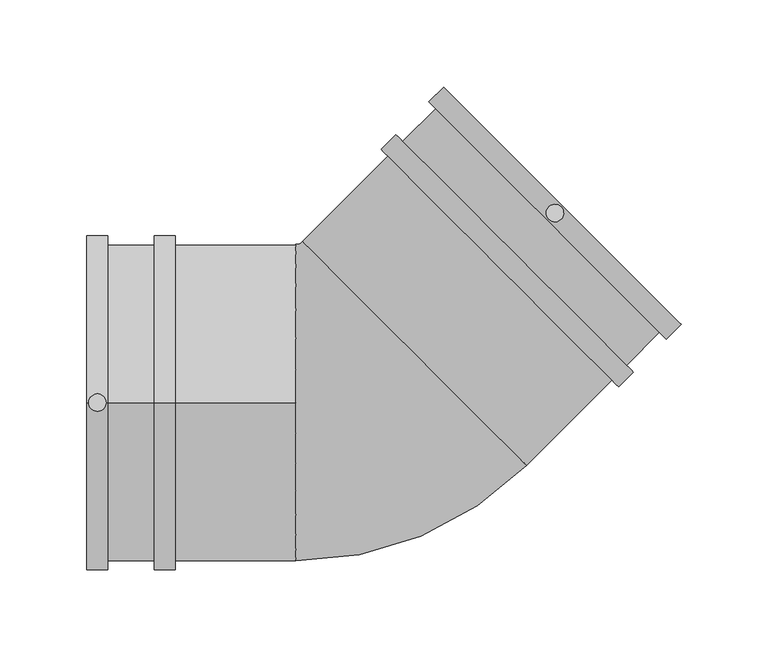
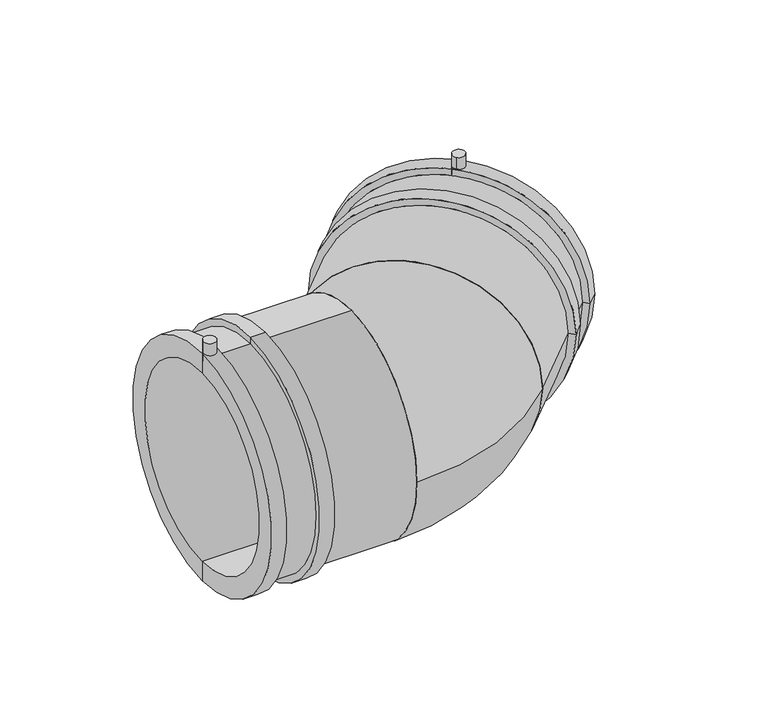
"""IFC4 building model written with IfcOpenShell, lengths in millimetres: pipe fitting geometry, Plumbing_Pipe-Fittings_Plasson_Wastewater-Elbow-45_470604 : Plumbing_Pipe-Fittings_Plasson_Wastewater-Elbow-45_470604."""

from ifc_helpers import new_model, si_unit, point, frame, frame_2d, origin, place, context, project, spatial, polyline, circle_curve, ellipse_curve, trimmed, segment, composite_curve, outline, extrude, source, transform, mapped, element, save
from ifc_brep_helpers import plane_surface, cylinder_surface, revolved_surface, advanced_brep


def pipe_fitting_199b5d55(model_context):
    return source(origin(), model_context, "Body", "SolidModel", [
        extrude(outline(composite_curve([segment(trimmed(circle_curve(frame_2d((-154.0130301, 0.0)), 5.0), [point((-159.0130301, 0.0))], [point((-149.0130301, 0.0))], False, "CARTESIAN"), True, "CONTINUOUS"), segment(trimmed(circle_curve(frame_2d((-154.0130301, 0.0)), 5.0), [point((-149.0130301, 0.0))], [point((-159.0130301, 0.0))], False, "CARTESIAN"), True, "CONTINUOUS")], self_intersect=False)), frame((0.0, 0.0, 88.25), z_axis=(0.0, 0.0, 1.0), x_axis=(1.0, 0.0, 0.0)), (0.0, 0.0, 1.0), 17.75),
        extrude(outline(composite_curve([segment(trimmed(circle_curve(frame_2d((108.903658, 108.903658)), 5.0), [point((105.3681241, 105.3681241))], [point((112.4391919, 112.4391919))], False, "CARTESIAN"), True, "CONTINUOUS"), segment(trimmed(circle_curve(frame_2d((108.903658, 108.903658)), 5.0), [point((112.4391919, 112.4391919))], [point((105.3681241, 105.3681241))], False, "CARTESIAN"), True, "CONTINUOUS")], self_intersect=False)), frame((0.0, 0.0, 88.25), z_axis=(0.0, 0.0, 1.0), x_axis=(1.0, 0.0, 0.0)), (0.0, 0.0, 1.0), 17.75),
        advanced_brep(
        [(169.7148412, 56.5777562, 0.0), (56.5777562, 169.7148412, 0.0), (-28.2750576, 84.8620274, 0.0), (84.8620274, -28.2750576, 0.0), (181.3821031, 44.9104943, 0.0), (44.9104943, 181.3821031, 0.0), (172.8968217, 36.4252129, 0.0), (36.4252129, 172.8968217, 0.0), (169.0077344, 40.3143002, 0.0), (40.3143002, 169.0077344, 0.0), (150.092628, 21.3991938, 0.0), (21.3991938, 150.092628, 0.0), (145.5082641, 9.0366553, 0.0), (9.0366553, 145.5082641, 0.0), (17.5101065, 153.9817153, 0.0), (153.9817153, 17.5101065, 0.0), (-36.0532322, 92.640202, 0.0), (92.640202, -36.0532322, 0.0), (141.6191768, 12.9257426, 0.0), (12.9257426, 141.6191768, 0.0)],
        [
            (0, 1, circle_curve(frame((113.1462987, 113.1462987, 0.0), z_axis=(0.7071067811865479, 0.7071067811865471, 0.0), x_axis=(-0.7071067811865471, 0.7071067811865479, 0.0)), 80.0)),
            (1, 2),
            (2, 3, circle_curve(frame((28.2934849, 28.2934849, 0.0), z_axis=(-0.7071067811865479, -0.7071067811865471, 0.0), x_axis=(-0.7071067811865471, 0.7071067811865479, 0.0)), 80.0)),
            (3, 0),
            (1, 0, circle_curve(frame((113.1462987, 113.1462987, 0.0), z_axis=(0.7071067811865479, 0.7071067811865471, 0.0), x_axis=(-0.7071067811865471, 0.7071067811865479, 0.0)), 80.0)),
            (3, 2, circle_curve(frame((28.2934849, 28.2934849, 0.0), z_axis=(-0.7071067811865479, -0.7071067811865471, 0.0), x_axis=(-0.7071067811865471, 0.7071067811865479, 0.0)), 80.0)),
            (4, 5, circle_curve(frame((113.1462987, 113.1462987, 0.0), z_axis=(0.7071067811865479, 0.7071067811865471, 0.0), x_axis=(-0.7071067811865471, 0.7071067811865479, 0.0)), 96.5)),
            (5, 1),
            (0, 4),
            (5, 4, circle_curve(frame((113.1462987, 113.1462987, 0.0), z_axis=(0.7071067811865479, 0.7071067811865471, 0.0), x_axis=(-0.7071067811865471, 0.7071067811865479, 0.0)), 96.5)),
            (6, 7, circle_curve(frame((104.6610173, 104.6610173, 0.0), z_axis=(0.7071067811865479, 0.7071067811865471, 0.0), x_axis=(-0.7071067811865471, 0.7071067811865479, 0.0)), 96.5)),
            (7, 5),
            (4, 6),
            (7, 6, circle_curve(frame((104.6610173, 104.6610173, 0.0), z_axis=(0.7071067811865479, 0.7071067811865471, 0.0), x_axis=(-0.7071067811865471, 0.7071067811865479, 0.0)), 96.5)),
            (8, 9, circle_curve(frame((104.6610173, 104.6610173, 0.0), z_axis=(0.7071067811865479, 0.7071067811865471, 0.0), x_axis=(-0.7071067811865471, 0.7071067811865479, 0.0)), 91.0)),
            (9, 7),
            (6, 8),
            (9, 8, circle_curve(frame((104.6610173, 104.6610173, 0.0), z_axis=(0.7071067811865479, 0.7071067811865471, 0.0), x_axis=(-0.7071067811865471, 0.7071067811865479, 0.0)), 91.0)),
            (10, 11, circle_curve(frame((85.7459109, 85.7459109, 0.0), z_axis=(0.7071067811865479, 0.7071067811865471, 0.0), x_axis=(-0.7071067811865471, 0.7071067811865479, 0.0)), 91.0)),
            (11, 9),
            (8, 10),
            (11, 10, circle_curve(frame((85.7459109, 85.7459109, 0.0), z_axis=(0.7071067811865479, 0.7071067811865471, 0.0), x_axis=(-0.7071067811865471, 0.7071067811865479, 0.0)), 91.0)),
            (12, 13, circle_curve(frame((77.2724597, 77.2724597, 0.0), z_axis=(0.7071067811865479, 0.7071067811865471, 0.0), x_axis=(-0.7071067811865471, 0.7071067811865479, 0.0)), 96.5)),
            (13, 14),
            (14, 15, circle_curve(frame((85.7459109, 85.7459109, 0.0), z_axis=(-0.7071067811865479, -0.7071067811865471, 0.0), x_axis=(-0.7071067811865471, 0.7071067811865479, 0.0)), 96.5)),
            (15, 12),
            (13, 12, circle_curve(frame((77.2724597, 77.2724597, 0.0), z_axis=(0.7071067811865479, 0.7071067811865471, 0.0), x_axis=(-0.7071067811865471, 0.7071067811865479, 0.0)), 96.5)),
            (15, 14, circle_curve(frame((85.7459109, 85.7459109, 0.0), z_axis=(-0.7071067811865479, -0.7071067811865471, 0.0), x_axis=(-0.7071067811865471, 0.7071067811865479, 0.0)), 96.5)),
            (2, 16),
            (16, 17, circle_curve(frame((28.2934849, 28.2934849, 0.0), z_axis=(-0.7071067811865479, -0.7071067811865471, 0.0), x_axis=(-0.7071067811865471, 0.7071067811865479, 0.0)), 91.0)),
            (17, 3),
            (17, 16, circle_curve(frame((28.2934849, 28.2934849, 0.0), z_axis=(-0.7071067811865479, -0.7071067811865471, 0.0), x_axis=(-0.7071067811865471, 0.7071067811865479, 0.0)), 91.0)),
            (14, 11),
            (10, 15),
            (18, 19, circle_curve(frame((77.2724597, 77.2724597, 0.0), z_axis=(0.7071067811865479, 0.7071067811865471, 0.0), x_axis=(-0.7071067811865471, 0.7071067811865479, 0.0)), 91.0)),
            (19, 13),
            (12, 18),
            (19, 18, circle_curve(frame((77.2724597, 77.2724597, 0.0), z_axis=(0.7071067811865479, 0.7071067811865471, 0.0), x_axis=(-0.7071067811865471, 0.7071067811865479, 0.0)), 91.0)),
            (16, 19),
            (18, 17),
        ],
        [
            revolved_surface(polyline([(-28.275057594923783, 84.86202739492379, 0.0), (56.577756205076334, 169.71484119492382, 0.0)]), (0.0, 0.0, 0.0), (-0.7071067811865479, -0.7071067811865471, 0.0)),
            plane_surface(frame((113.1462987, 113.1462987, 0.0), z_axis=(0.7071067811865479, 0.7071067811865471, 0.0), x_axis=(-0.7071067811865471, 0.7071067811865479, 0.0))),
            cylinder_surface(frame((0.0, 0.0, 0.0), z_axis=(-0.7071067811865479, -0.7071067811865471, 0.0), x_axis=(-0.7071067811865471, 0.7071067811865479, 0.0)), 96.5),
            plane_surface(frame((104.6610173, 104.6610173, 0.0), z_axis=(-0.7071067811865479, -0.7071067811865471, 0.0), x_axis=(-0.7071067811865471, 0.7071067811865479, 0.0))),
            cylinder_surface(frame((0.0, 0.0, 0.0), z_axis=(-0.7071067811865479, -0.7071067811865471, 0.0), x_axis=(-0.7071067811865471, 0.7071067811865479, 0.0)), 91.0),
            plane_surface(frame((28.2934849, 28.2934849, 0.0), z_axis=(-0.7071067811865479, -0.7071067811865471, 0.0), x_axis=(-0.7071067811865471, 0.7071067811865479, 0.0))),
            plane_surface(frame((85.7459109, 85.7459109, 0.0), z_axis=(0.7071067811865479, 0.7071067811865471, 0.0), x_axis=(-0.7071067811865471, 0.7071067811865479, 0.0))),
            plane_surface(frame((77.2724597, 77.2724597, 0.0), z_axis=(-0.7071067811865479, -0.7071067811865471, 0.0), x_axis=(-0.7071067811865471, 0.7071067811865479, 0.0))),
        ],
        [
            (0, [[1, 2, 3, 4]]),
            (0, [[5, -4, 6, -2]]),
            (1, [[7, 8, -1, 9]]),
            (1, [[10, -9, -5, -8]]),
            (2, [[11, 12, -7, 13]]),
            (2, [[14, -13, -10, -12]]),
            (3, [[15, 16, -11, 17]]),
            (3, [[18, -17, -14, -16]]),
            (4, [[19, 20, -15, 21]]),
            (4, [[22, -21, -18, -20]]),
            (2, [[23, 24, 25, 26]]),
            (2, [[27, -26, 28, -24]]),
            (5, [[-3, 29, 30, 31]]),
            (5, [[-6, -31, 32, -29]]),
            (6, [[-25, 33, -19, 34]]),
            (6, [[-28, -34, -22, -33]]),
            (7, [[35, 36, -23, 37]]),
            (7, [[38, -37, -27, -36]]),
            (4, [[-30, 39, -35, 40]]),
            (4, [[-32, -40, -38, -39]]),
        ],
    ),
        advanced_brep(
        [(-40.0130301, -91.0, 0.0), (-40.0130301, 91.0, 0.0), (92.640202, -36.0532322, 0.0), (-36.0532322, 92.640202, 0.0)],
        [
            (0, 1, circle_curve(frame((-40.0130301, 0.0, 0.0), z_axis=(-1.0, 0.0, 0.0), x_axis=(0.0, 1.0, 0.0)), 91.0)),
            (1, 0, circle_curve(frame((-40.0130301, 0.0, 0.0), z_axis=(-1.0, 0.0, 0.0), x_axis=(0.0, 1.0, 0.0)), 91.0)),
            (2, 3, circle_curve(frame((28.2934849, 28.2934849, 0.0), z_axis=(0.7071067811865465, 0.7071067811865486, 0.0), x_axis=(-0.7071067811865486, 0.7071067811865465, 0.0)), 91.0)),
            (3, 2, circle_curve(frame((28.2934849, 28.2934849, 0.0), z_axis=(0.7071067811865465, 0.7071067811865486, 0.0), x_axis=(-0.7071067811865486, 0.7071067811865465, 0.0)), 91.0)),
            (3, 1, circle_curve(frame((-40.0130301, 96.6, 0.0), z_axis=(0.0, 0.0, -1.0), x_axis=(0.0, -1.0, 0.0)), 5.6)),
            (0, 2, circle_curve(frame((-40.0130301, 96.6, 0.0), z_axis=(0.0, 0.0, 1.0), x_axis=(0.0, -1.0, 0.0)), 187.6)),
        ],
        [
            plane_surface(frame((-40.0130301, 0.0, 0.0), z_axis=(-1.0, 0.0, 0.0), x_axis=(0.0, 0.0, 1.0))),
            plane_surface(frame((28.2934849, 28.2934849, 0.0), z_axis=(0.7071067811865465, 0.7071067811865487, 0.0), x_axis=(0.0, 0.0, 1.0))),
            revolved_surface(trimmed(ellipse_curve(frame((-40.0130301, 0.0, 0.0), z_axis=(-1.0, 0.0, 0.0), x_axis=(0.0, 1.0, 0.0)), 91.0, 91.0), [point((-40.0130301, -91.0, 0.0))], [point((-40.0130301, 91.0, 0.0))], True, "CARTESIAN"), (-40.0130301, 96.6, 0.0), (0.0, 0.0, 1.0)),
            revolved_surface(trimmed(ellipse_curve(frame((-40.0130301, 0.0, 0.0), z_axis=(-1.0, 0.0, 0.0), x_axis=(0.0, 1.0, 0.0)), 91.0, 91.0), [point((-40.0130301, 91.0, 0.0))], [point((-40.0130301, -91.0, 0.0))], True, "CARTESIAN"), (-40.0130301, 96.6, 0.0), (0.0, 0.0, 1.0)),
        ],
        [
            (0, [[1, 2]]),
            (1, [[3, 4]]),
            (2, [[5, -1, 6, -4]]),
            (3, [[-6, -2, -5, -3]]),
        ],
    ),
        advanced_brep(
        [(-40.0130301, 0.0, -80.0), (-40.0130301, 0.0, 80.0), (-160.0130301, 0.0, 80.0), (-160.0130301, 0.0, -80.0), (-121.2630301, 0.0, -96.5), (-121.2630301, 0.0, 96.5), (-109.2630301, 0.0, 96.5), (-109.2630301, 0.0, -96.5), (-148.0130301, 0.0, -91.0), (-148.0130301, 0.0, 91.0), (-121.2630301, 0.0, 91.0), (-121.2630301, 0.0, -91.0), (-148.0130301, 0.0, -96.5), (-148.0130301, 0.0, 96.5), (-160.0130301, 0.0, -96.5), (-160.0130301, 0.0, 96.5), (-40.0130301, 0.0, -91.0), (-40.0130301, 0.0, 91.0), (-109.2630301, 0.0, -91.0), (-109.2630301, 0.0, 91.0)],
        [
            (0, 1, circle_curve(frame((-40.0130301, 0.0, 0.0), z_axis=(1.0, 0.0, 0.0), x_axis=(0.0, 0.0, 1.0)), 80.0)),
            (1, 2),
            (2, 3, circle_curve(frame((-160.0130301, 0.0, 0.0), z_axis=(-1.0, 0.0, 0.0), x_axis=(0.0, 0.0, 1.0)), 80.0)),
            (3, 0),
            (1, 0, circle_curve(frame((-40.0130301, 0.0, 0.0), z_axis=(1.0, 0.0, 0.0), x_axis=(0.0, 0.0, 1.0)), 80.0)),
            (3, 2, circle_curve(frame((-160.0130301, 0.0, 0.0), z_axis=(-1.0, 0.0, 0.0), x_axis=(0.0, 0.0, 1.0)), 80.0)),
            (4, 5, circle_curve(frame((-121.2630301, 0.0, 0.0), z_axis=(1.0, 0.0, 0.0), x_axis=(0.0, 0.0, 1.0)), 96.5)),
            (5, 6),
            (6, 7, circle_curve(frame((-109.2630301, 0.0, 0.0), z_axis=(-1.0, 0.0, 0.0), x_axis=(0.0, 0.0, 1.0)), 96.5)),
            (7, 4),
            (5, 4, circle_curve(frame((-121.2630301, 0.0, 0.0), z_axis=(1.0, 0.0, 0.0), x_axis=(0.0, 0.0, 1.0)), 96.5)),
            (7, 6, circle_curve(frame((-109.2630301, 0.0, 0.0), z_axis=(-1.0, 0.0, 0.0), x_axis=(0.0, 0.0, 1.0)), 96.5)),
            (8, 9, circle_curve(frame((-148.0130301, 0.0, 0.0), z_axis=(1.0, 0.0, 0.0), x_axis=(0.0, 0.0, 1.0)), 91.0)),
            (9, 10),
            (10, 11, circle_curve(frame((-121.2630301, 0.0, 0.0), z_axis=(-1.0, 0.0, 0.0), x_axis=(0.0, 0.0, 1.0)), 91.0)),
            (11, 8),
            (9, 8, circle_curve(frame((-148.0130301, 0.0, 0.0), z_axis=(1.0, 0.0, 0.0), x_axis=(0.0, 0.0, 1.0)), 91.0)),
            (11, 10, circle_curve(frame((-121.2630301, 0.0, 0.0), z_axis=(-1.0, 0.0, 0.0), x_axis=(0.0, 0.0, 1.0)), 91.0)),
            (12, 13, circle_curve(frame((-148.0130301, 0.0, 0.0), z_axis=(1.0, 0.0, 0.0), x_axis=(0.0, 0.0, 1.0)), 96.5)),
            (13, 9),
            (8, 12),
            (13, 12, circle_curve(frame((-148.0130301, 0.0, 0.0), z_axis=(1.0, 0.0, 0.0), x_axis=(0.0, 0.0, 1.0)), 96.5)),
            (14, 15, circle_curve(frame((-160.0130301, 0.0, 0.0), z_axis=(1.0, 0.0, 0.0), x_axis=(0.0, 0.0, 1.0)), 96.5)),
            (15, 13),
            (12, 14),
            (15, 14, circle_curve(frame((-160.0130301, 0.0, 0.0), z_axis=(1.0, 0.0, 0.0), x_axis=(0.0, 0.0, 1.0)), 96.5)),
            (2, 15),
            (14, 3),
            (16, 17, circle_curve(frame((-40.0130301, 0.0, 0.0), z_axis=(1.0, 0.0, 0.0), x_axis=(0.0, 0.0, 1.0)), 91.0)),
            (17, 1),
            (0, 16),
            (17, 16, circle_curve(frame((-40.0130301, 0.0, 0.0), z_axis=(1.0, 0.0, 0.0), x_axis=(0.0, 0.0, 1.0)), 91.0)),
            (18, 19, circle_curve(frame((-109.2630301, 0.0, 0.0), z_axis=(1.0, 0.0, 0.0), x_axis=(0.0, 0.0, 1.0)), 91.0)),
            (19, 17),
            (16, 18),
            (19, 18, circle_curve(frame((-109.2630301, 0.0, 0.0), z_axis=(1.0, 0.0, 0.0), x_axis=(0.0, 0.0, 1.0)), 91.0)),
            (6, 19),
            (18, 7),
            (10, 5),
            (4, 11),
        ],
        [
            revolved_surface(polyline([(-160.0130301, 0.0, 80.0), (-40.01303010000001, 0.0, 80.0)]), (-160.0130301, 0.0, 0.0), (-1.0, 0.0, 0.0)),
            cylinder_surface(frame((-160.0130301, 0.0, 0.0), z_axis=(-1.0, 0.0, 0.0), x_axis=(0.0, 0.0, 1.0)), 96.5),
            cylinder_surface(frame((-160.0130301, 0.0, 0.0), z_axis=(-1.0, 0.0, 0.0), x_axis=(0.0, 0.0, 1.0)), 91.0),
            plane_surface(frame((-148.0130301, 0.0, 0.0), z_axis=(1.0, 0.0, 0.0), x_axis=(0.0, 0.0, 1.0))),
            plane_surface(frame((-160.0130301, 0.0, 0.0), z_axis=(-1.0, 0.0, 0.0), x_axis=(0.0, 0.0, 1.0))),
            plane_surface(frame((-40.0130301, 0.0, 0.0), z_axis=(1.0, 0.0, 0.0), x_axis=(0.0, 0.0, 1.0))),
            plane_surface(frame((-109.2630301, 0.0, 0.0), z_axis=(1.0, 0.0, 0.0), x_axis=(0.0, 0.0, 1.0))),
            plane_surface(frame((-121.2630301, 0.0, 0.0), z_axis=(-1.0, 0.0, 0.0), x_axis=(0.0, 0.0, 1.0))),
        ],
        [
            (0, [[1, 2, 3, 4]]),
            (0, [[5, -4, 6, -2]]),
            (1, [[7, 8, 9, 10]]),
            (1, [[11, -10, 12, -8]]),
            (2, [[13, 14, 15, 16]]),
            (2, [[17, -16, 18, -14]]),
            (3, [[19, 20, -13, 21]]),
            (3, [[22, -21, -17, -20]]),
            (1, [[23, 24, -19, 25]]),
            (1, [[26, -25, -22, -24]]),
            (4, [[-3, 27, -23, 28]]),
            (4, [[-6, -28, -26, -27]]),
            (5, [[29, 30, -1, 31]]),
            (5, [[32, -31, -5, -30]]),
            (2, [[33, 34, -29, 35]]),
            (2, [[36, -35, -32, -34]]),
            (6, [[-9, 37, -33, 38]]),
            (6, [[-12, -38, -36, -37]]),
            (7, [[-15, 39, -7, 40]]),
            (7, [[-18, -40, -11, -39]]),
        ],
    ),
    ])


if __name__ == "__main__":
    model = new_model("IFC4")
    model_context = context("Model", 3, world=origin())
    ifc_project = project(units=[si_unit("LENGTHUNIT", "METRE", prefix="MILLI")], contexts=[model_context])
    site = spatial("IfcSite", under=ifc_project)
    building = spatial("IfcBuilding", under=site)
    placement = place(None, origin())
    pipe_fitting_shape = pipe_fitting_199b5d55(model_context)
    element("IfcPipeFitting", 1, ObjectType="Plumbing_Pipe-Fittings_Plasson_Wastewater-Elbow-45_470604 : Plumbing_Pipe-Fittings_Plasson_Wastewater-Elbow-45_470604", at=placement, inside=building, context=model_context, shape_type="MappedRepresentation", body=[
        mapped(pipe_fitting_shape, transform((0.0, 0.0, 0.0), x_axis=(1.0, 0.0, 0.0), y_axis=(0.0, 1.0, 0.0), z_axis=(0.0, 0.0, 1.0))),
    ])
    save(model, "model.ifc")
